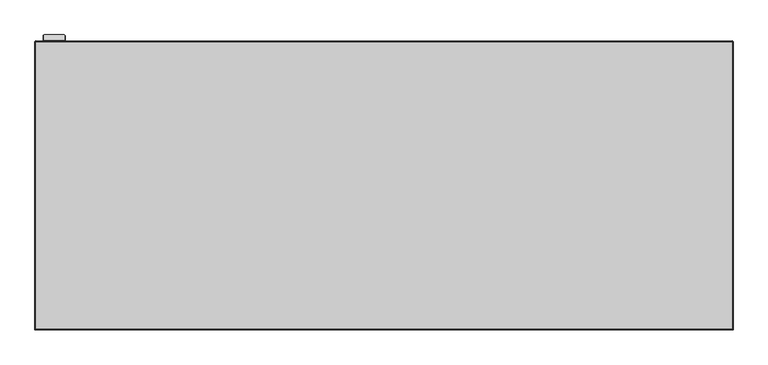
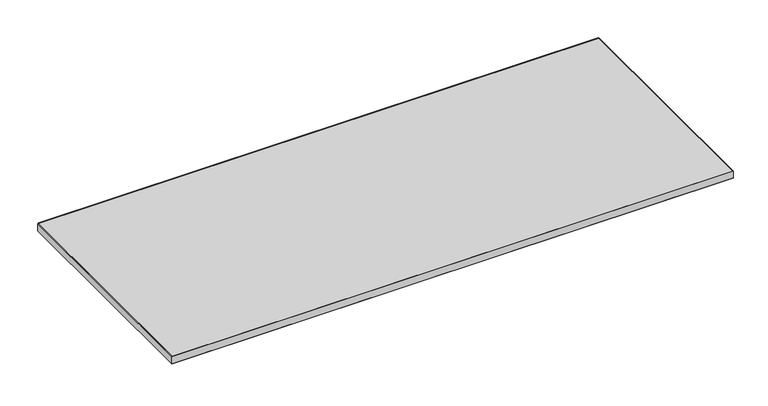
"""IFC4 building model written with IfcOpenShell, lengths in millimetres: furniture geometry, Steelcase - Migration SE - Desk - Rectangular - T Leg : 29D x 70W."""

from ifc_helpers import new_model, si_unit, point, frame, frame_2d, origin, place, context, project, spatial, polyline, circle_curve, trimmed, segment, composite_curve, outline, extrude, faceted_brep, source, transform, mapped, element, save
from ifc_brep_helpers import plane_surface, cylinder_surface, advanced_brep


def furniture_30cb4992(model_context):
    return source(origin(), model_context, "Body", "SolidModel", [
        advanced_brep(
        [(-712.1377438, 419.5454312, 714.902), (-662.6377614, 419.5454312, 714.902), (-662.6377614, 451.6, 714.902), (-712.1377438, 451.6, 714.902), (-662.6377614, 419.5454312, 707.1581454), (-712.1377438, 419.5454312, 707.1581454), (-712.1377438, 446.6161373, 707.1581454), (-662.6377614, 446.6161373, 707.1581454), (-662.6377614, 444.5567727, 709.21751), (-662.6377614, 449.1527665, 713.8135038), (-662.6377614, 451.6, 711.3662703), (-712.1377438, 451.6, 711.3662703), (-712.1377438, 449.1527665, 713.8135038), (-712.1377438, 444.5567727, 709.21751), (-661.1885979, 449.1527665, 713.8135038), (-659.3357614, 450.4629198, 712.5033505), (-659.3357614, 464.6881742, 698.2780961), (-661.5656329, 466.2649315, 696.7013388), (-713.486, 466.2649315, 696.7013388), (-715.518, 464.8280905, 698.1381797), (-715.518, 450.5896075, 712.3766628), (-713.486, 449.1527665, 713.8135038), (-713.486, 444.5567727, 709.21751), (-715.518, 445.9936137, 707.780669), (-715.518, 460.2320967, 693.542186), (-713.486, 461.6689377, 692.105345), (-661.5656329, 461.6689377, 692.105345), (-659.3357614, 460.0921804, 693.6821023), (-659.3357614, 445.866926, 707.9073567), (-661.1885979, 444.5567727, 709.21751)],
        [
            (0, 1),
            (1, 2),
            (2, 3),
            (3, 0),
            (4, 5),
            (5, 6),
            (6, 7),
            (7, 4),
            (0, 5),
            (4, 1),
            (7, 8),
            (8, 9),
            (9, 10),
            (10, 2),
            (10, 11),
            (11, 3),
            (11, 12),
            (12, 13),
            (13, 6),
            (14, 15, circle_curve(frame((-661.1885979, 450.4629198, 712.5033505), z_axis=(0.0, 0.7071067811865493, 0.7071067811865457), x_axis=(0.0, 0.7071067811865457, -0.7071067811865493)), 1.8528366)),
            (15, 16),
            (16, 17, circle_curve(frame((-661.5656329, 464.6881742, 698.2780961), z_axis=(0.0, 0.7071067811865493, 0.7071067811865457), x_axis=(0.0, 0.7071067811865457, -0.7071067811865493)), 2.2298716)),
            (17, 18),
            (18, 19, circle_curve(frame((-713.486, 464.8280905, 698.1381797), z_axis=(0.0, 0.7071067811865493, 0.7071067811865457), x_axis=(0.0, 0.7071067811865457, -0.7071067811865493)), 2.032)),
            (19, 20),
            (20, 21, circle_curve(frame((-713.486, 450.5896075, 712.3766628), z_axis=(0.0, 0.7071067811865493, 0.7071067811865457), x_axis=(0.0, 0.7071067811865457, -0.7071067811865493)), 2.032)),
            (21, 12),
            (9, 14),
            (22, 23, circle_curve(frame((-713.486, 445.9936137, 707.780669), z_axis=(0.0, -0.7071067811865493, -0.7071067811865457), x_axis=(0.0, 0.7071067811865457, -0.7071067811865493)), 2.032)),
            (23, 24),
            (24, 25, circle_curve(frame((-713.486, 460.2320967, 693.542186), z_axis=(0.0, -0.7071067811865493, -0.7071067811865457), x_axis=(0.0, 0.7071067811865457, -0.7071067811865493)), 2.032)),
            (25, 26),
            (26, 27, circle_curve(frame((-661.5656329, 460.0921804, 693.6821023), z_axis=(0.0, -0.7071067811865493, -0.7071067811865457), x_axis=(0.0, 0.7071067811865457, -0.7071067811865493)), 2.2298716)),
            (27, 28),
            (28, 29, circle_curve(frame((-661.1885979, 445.866926, 707.9073567), z_axis=(0.0, -0.7071067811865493, -0.7071067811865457), x_axis=(0.0, 0.7071067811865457, -0.7071067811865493)), 1.8528366)),
            (29, 8),
            (13, 22),
            (21, 22),
            (29, 14),
            (28, 15),
            (27, 16),
            (26, 17),
            (25, 18),
            (24, 19),
            (23, 20),
        ],
        [
            plane_surface(frame((-662.6377614, 419.5454312, 714.902), z_axis=(0.0, 0.0, 1.0), x_axis=(1.0, 0.0, 0.0))),
            plane_surface(frame((-662.6377614, 419.5454312, 707.1581454), z_axis=(0.0, 0.0, -1.0), x_axis=(-1.0, 0.0, 0.0))),
            plane_surface(frame((-712.1377438, 419.5454312, 714.902), z_axis=(0.0, -1.0, 0.0), x_axis=(0.0, 0.0, -1.0))),
            plane_surface(frame((-662.6377614, 419.5454312, 714.902), z_axis=(1.0, 0.0, 0.0), x_axis=(0.0, 0.0, -1.0))),
            plane_surface(frame((-662.6377614, 451.6, 714.902), z_axis=(0.0, 1.0, 0.0), x_axis=(0.0, 0.0, -1.0))),
            plane_surface(frame((-712.1377438, 451.6, 714.902), z_axis=(-1.0, 0.0, 0.0), x_axis=(0.0, 0.0, -1.0))),
            plane_surface(frame((-661.1885979, 449.1527665, 713.8135038), z_axis=(0.0, 0.7071067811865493, 0.7071067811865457), x_axis=(1.0, 0.0, 0.0))),
            plane_surface(frame((-661.1885979, 444.5567727, 709.21751), z_axis=(0.0, -0.7071067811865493, -0.7071067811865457), x_axis=(-1.0, 0.0, 0.0))),
            plane_surface(frame((-713.486, 449.1527665, 713.8135038), z_axis=(0.0, -0.7071067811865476, 0.7071067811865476), x_axis=(0.0, -0.7071067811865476, -0.7071067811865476))),
            cylinder_surface(frame((-661.1885979, 445.866926, 707.9073567), z_axis=(0.0, 0.7071067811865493, 0.7071067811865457), x_axis=(0.0, 0.7071067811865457, -0.7071067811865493)), 1.8528366),
            plane_surface(frame((-659.3357614, 450.4629198, 712.5033505), z_axis=(1.0000000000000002, 0.0, 0.0), x_axis=(0.0, -0.7071067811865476, -0.7071067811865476))),
            cylinder_surface(frame((-661.5656329, 460.0921804, 693.6821023), z_axis=(0.0, 0.7071067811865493, 0.7071067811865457), x_axis=(0.0, 0.7071067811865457, -0.7071067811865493)), 2.2298716),
            plane_surface(frame((-661.5656329, 466.2649315, 696.7013388), z_axis=(0.0, 0.7071067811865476, -0.7071067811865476), x_axis=(0.0, -0.7071067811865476, -0.7071067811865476))),
            cylinder_surface(frame((-713.486, 460.2320967, 693.542186), z_axis=(0.0, 0.7071067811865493, 0.7071067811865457), x_axis=(0.0, 0.7071067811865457, -0.7071067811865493)), 2.032),
            plane_surface(frame((-715.518, 464.8280905, 698.1381797), z_axis=(-1.0, 0.0, 0.0), x_axis=(0.0, -0.7071067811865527, -0.7071067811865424))),
            cylinder_surface(frame((-713.486, 445.9936137, 707.780669), z_axis=(0.0, 0.7071067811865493, 0.7071067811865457), x_axis=(0.0, 0.7071067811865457, -0.7071067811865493)), 2.032),
        ],
        [
            (0, [[1, 2, 3, 4]]),
            (1, [[5, 6, 7, 8]]),
            (2, [[-1, 9, -5, 10]]),
            (3, [[-2, -10, -8, 11, 12, 13, 14]]),
            (4, [[-3, -14, 15, 16]]),
            (5, [[-4, -16, 17, 18, 19, -6, -9]]),
            (6, [[20, 21, 22, 23, 24, 25, 26, 27, -17, -15, -13, 28]]),
            (7, [[29, 30, 31, 32, 33, 34, 35, 36, -11, -7, -19, 37]]),
            (8, [[38, -37, -18, -27]]),
            (8, [[39, -28, -12, -36]]),
            (9, [[-20, -39, -35, 40]]),
            (10, [[-21, -40, -34, 41]]),
            (11, [[-22, -41, -33, 42]]),
            (12, [[-23, -42, -32, 43]]),
            (13, [[-24, -43, -31, 44]]),
            (14, [[-25, -44, -30, 45]]),
            (15, [[-26, -45, -29, -38]]),
        ],
    ),
        extrude(outline(composite_curve([segment(trimmed(circle_curve(frame_2d((48.6765212, -3.048)), 3.048), [point((48.6765212, 0.0))], [point((51.7245212, -3.048))], False, "CARTESIAN"), True, "CONTINUOUS"), segment(polyline([(51.7245212, -3.048), (51.7245212, -18.8922072)]), True, "CONTINUOUS"), segment(trimmed(circle_curve(frame_2d((48.7382411, -18.8922072)), 2.9862801), [point((51.7245212, -18.8922072))], [point((48.7382411, -21.8784873))], False, "CARTESIAN"), True, "CONTINUOUS"), segment(polyline([(48.7382411, -21.8784873), (-0.0003332, -21.8784873)]), True, "CONTINUOUS"), segment(trimmed(circle_curve(frame_2d((-0.0003332, -19.0283589)), 2.8501284), [point((-0.0003332, -21.8784873))], [point((-2.8504616, -19.0283589))], False, "CARTESIAN"), True, "CONTINUOUS"), segment(polyline([(-2.8504616, -19.0283589), (-2.8504616, -2.8504615)]), True, "CONTINUOUS"), segment(trimmed(circle_curve(frame_2d((0.0, -2.8504615)), 2.8504615), [point((-2.8504616, -2.8504615))], [point((0.0, 0.0))], False, "CARTESIAN"), True, "CONTINUOUS"), segment(polyline([(0.0, 0.0), (48.6765212, 0.0)]), True, "CONTINUOUS")], self_intersect=False)), frame((-662.8979479, 443.782049, 706.7937033), z_axis=(0.0, 0.7071067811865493, 0.7071067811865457), x_axis=(-1.0, 0.0, 0.0)), (0.0, 0.0, 1.0), 11.2615577),
        extrude(outline(polyline([(-735.8379612, 450.0014375), (-734.2393744, 451.6), (1039.0393744, 451.6), (1040.637937, 450.0014375), (-735.8379612, 450.0014375)])), frame((0.0, 0.0, 714.902), z_axis=(0.0, 0.0, 1.0), x_axis=(1.0, 0.0, 0.0)), (0.0, 0.0, 1.0), 25.0),
        faceted_brep([(1039.0395821, 451.5997924, 714.902), (1039.0395821, 451.5997924, 739.902), (1039.5783794, 452.1386142, 739.1400081), (1039.5783794, 452.1386142, 715.6639919), (1041.3996132, 450.3174632, 739.1400081), (1041.3996132, -285.0003864, 739.1400081), (1041.3996132, -285.0003864, 715.6639919), (1041.3996132, 450.3174632, 715.6639919), (1040.6376214, 450.0018257, 714.902), (1040.6376214, -284.2383946, 714.902), (1040.6376214, -284.2383946, 739.902), (1040.6376214, 450.0018257, 739.902), (-736.6, -285.0003864, 739.1400081), (-736.6, -285.0003864, 715.6639919), (-735.8380081, -284.2383946, 714.902), (-735.8380081, -284.2383946, 739.902), (-734.2395821, 451.5997924, 714.902), (-734.7783876, 452.138606, 715.6639919), (-734.7783876, 452.138606, 739.1400081), (-734.2395821, 451.5997924, 739.902), (-736.6, 450.3170212, 739.1400081), (-736.6, 450.3170212, 715.6639919), (-735.8380081, 450.0013905, 714.902), (-735.8380081, 450.0013905, 739.902)], [[[0, 1, 2, 3]], [[4, 5, 6, 7]], [[8, 9, 10, 11]], [[5, 12, 13, 6]], [[9, 14, 15, 10]], [[16, 17, 18, 19]], [[12, 20, 21, 13]], [[14, 22, 23, 15]], [[7, 6, 9, 8]], [[11, 10, 5, 4]], [[6, 13, 14, 9]], [[10, 15, 12, 5]], [[13, 21, 22, 14]], [[15, 23, 20, 12]], [[3, 7, 8, 0]], [[2, 4, 7, 3]], [[1, 11, 4, 2]], [[0, 8, 11, 1]], [[21, 17, 16, 22]], [[20, 18, 17, 21]], [[23, 19, 18, 20]], [[22, 16, 19, 23]]]),
        extrude(outline(polyline([(1040.6376214, -284.2383946), (-735.8380081, -284.2383946), (-735.8380081, 450.0014375), (1040.6376214, 450.0014375), (1040.6376214, -284.2383946)])), frame((0.0, 0.0, 714.902), z_axis=(0.0, 0.0, 1.0), x_axis=(1.0, 0.0, 0.0)), (0.0, 0.0, 1.0), 25.0),
    ])


if __name__ == "__main__":
    model = new_model("IFC4")
    model_context = context("Model", 3, world=origin())
    ifc_project = project(units=[si_unit("LENGTHUNIT", "METRE", prefix="MILLI")], contexts=[model_context])
    site = spatial("IfcSite", under=ifc_project)
    building = spatial("IfcBuilding", under=site)
    placement = place(None, origin())
    furniture_shape = furniture_30cb4992(model_context)
    element("IfcFurniture", 1, ObjectType="Steelcase - Migration SE - Desk - Rectangular - T Leg : 29D x 70W", at=placement, inside=building, context=model_context, shape_type="MappedRepresentation", body=[
        mapped(furniture_shape, transform((0.0, 0.0, 0.0), x_axis=(1.0, 0.0, 0.0), y_axis=(0.0, 1.0, 0.0), z_axis=(0.0, 0.0, 1.0))),
    ])
    save(model, "model.ifc")
